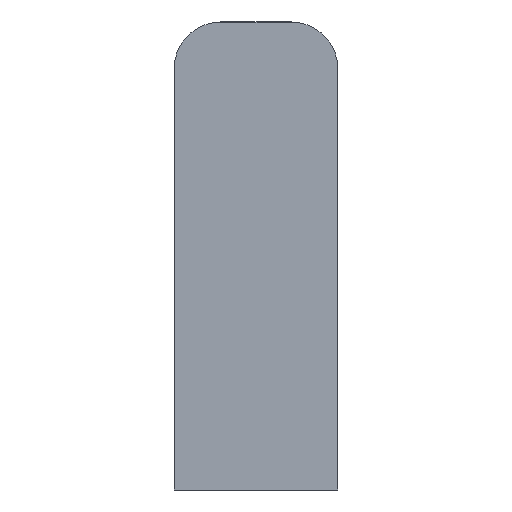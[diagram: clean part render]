
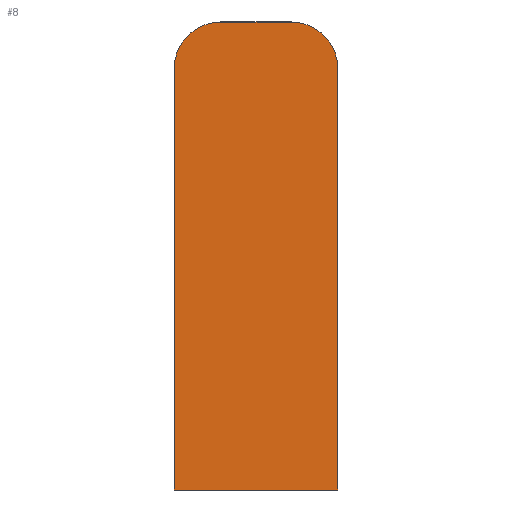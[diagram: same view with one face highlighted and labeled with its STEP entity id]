
A CAD part, front view. The second image highlights one B-rep face of the part: STEP entity #8.
In plain terms, the highlighted planar face has unit normal (0, -1, 0).
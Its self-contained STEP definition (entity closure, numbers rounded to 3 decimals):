
#8 = ADVANCED_FACE ( 'NONE', ( #72 ), #186, .F. ) ;
#26 = EDGE_LOOP ( 'NONE', ( #53, #54, #50, #33, #34, #52 ) ) ;
#33 = ORIENTED_EDGE ( 'NONE', *, *, #129, .T. ) ;
#34 = ORIENTED_EDGE ( 'NONE', *, *, #152, .T. ) ;
#50 = ORIENTED_EDGE ( 'NONE', *, *, #143, .T. ) ;
#52 = ORIENTED_EDGE ( 'NONE', *, *, #141, .T. ) ;
#53 = ORIENTED_EDGE ( 'NONE', *, *, #117, .T. ) ;
#54 = ORIENTED_EDGE ( 'NONE', *, *, #144, .T. ) ;
#65 = CIRCLE ( 'NONE', #148, 3. ) ;
#72 = FACE_OUTER_BOUND ( 'NONE', #26, .T. ) ;
#74 = LINE ( 'NONE', #193, #76 ) ;
#76 = VECTOR ( 'NONE', #203, 1000. ) ;
#77 = LINE ( 'NONE', #228, #104 ) ;
#89 = VECTOR ( 'NONE', #233, 1000. ) ;
#96 = LINE ( 'NONE', #237, #89 ) ;
#97 = CIRCLE ( 'NONE', #151, 3. ) ;
#100 = LINE ( 'NONE', #243, #101 ) ;
#101 = VECTOR ( 'NONE', #244, 1000. ) ;
#104 = VECTOR ( 'NONE', #242, 1000. ) ;
#117 = EDGE_CURVE ( 'NONE', #165, #162, #74, .T. ) ;
#129 = EDGE_CURVE ( 'NONE', #163, #230, #65, .T. ) ;
#141 = EDGE_CURVE ( 'NONE', #239, #165, #77, .T. ) ;
#143 = EDGE_CURVE ( 'NONE', #159, #163, #100, .T. ) ;
#144 = EDGE_CURVE ( 'NONE', #162, #159, #97, .T. ) ;
#145 = AXIS2_PLACEMENT_3D ( 'NONE', #189, #194, #195 ) ;
#148 = AXIS2_PLACEMENT_3D ( 'NONE', #214, #216, #217 ) ;
#151 = AXIS2_PLACEMENT_3D ( 'NONE', #241, #157, #224 ) ;
#152 = EDGE_CURVE ( 'NONE', #230, #239, #96, .T. ) ;
#157 = DIRECTION ( 'NONE',  ( 0., -1., 0. ) ) ;
#159 = VERTEX_POINT ( 'NONE', #246 ) ;
#162 = VERTEX_POINT ( 'NONE', #235 ) ;
#163 = VERTEX_POINT ( 'NONE', #247 ) ;
#165 = VERTEX_POINT ( 'NONE', #249 ) ;
#186 = PLANE ( 'NONE',  #145 ) ;
#189 = CARTESIAN_POINT ( 'NONE',  ( 0., 0., -1.5 ) ) ;
#193 = CARTESIAN_POINT ( 'NONE',  ( 5.25, 0., -16.5 ) ) ;
#194 = DIRECTION ( 'NONE',  ( 0., 1., 0. ) ) ;
#195 = DIRECTION ( 'NONE',  ( -1., 0., 0. ) ) ;
#203 = DIRECTION ( 'NONE',  ( 0., 0., 1. ) ) ;
#214 = CARTESIAN_POINT ( 'NONE',  ( -2.25, 0., 10.5 ) ) ;
#216 = DIRECTION ( 'NONE',  ( 0., -1., 0. ) ) ;
#217 = DIRECTION ( 'NONE',  ( -1., 0., 0. ) ) ;
#224 = DIRECTION ( 'NONE',  ( -1., 0., 0. ) ) ;
#228 = CARTESIAN_POINT ( 'NONE',  ( 5.25, 0., -16.5 ) ) ;
#230 = VERTEX_POINT ( 'NONE', #251 ) ;
#233 = DIRECTION ( 'NONE',  ( 0., 0., -1. ) ) ;
#235 = CARTESIAN_POINT ( 'NONE',  ( 5.25, 0., 10.5 ) ) ;
#237 = CARTESIAN_POINT ( 'NONE',  ( -5.25, 0., -16.5 ) ) ;
#239 = VERTEX_POINT ( 'NONE', #253 ) ;
#241 = CARTESIAN_POINT ( 'NONE',  ( 2.25, 0., 10.5 ) ) ;
#242 = DIRECTION ( 'NONE',  ( 1., 0., 0. ) ) ;
#243 = CARTESIAN_POINT ( 'NONE',  ( 2.25, 0., 13.5 ) ) ;
#244 = DIRECTION ( 'NONE',  ( -1., 0., 0. ) ) ;
#246 = CARTESIAN_POINT ( 'NONE',  ( 2.25, 0., 13.5 ) ) ;
#247 = CARTESIAN_POINT ( 'NONE',  ( -2.25, 0., 13.5 ) ) ;
#249 = CARTESIAN_POINT ( 'NONE',  ( 5.25, 0., -16.5 ) ) ;
#251 = CARTESIAN_POINT ( 'NONE',  ( -5.25, 0., 10.5 ) ) ;
#253 = CARTESIAN_POINT ( 'NONE',  ( -5.25, 0., -16.5 ) ) ;
